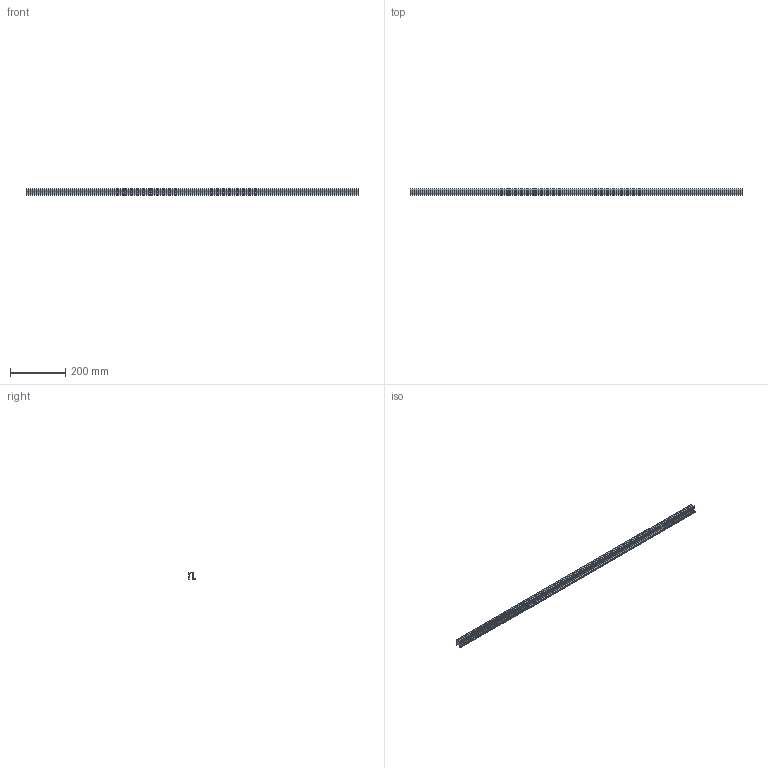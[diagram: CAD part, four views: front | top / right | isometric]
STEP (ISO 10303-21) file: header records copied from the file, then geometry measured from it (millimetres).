
FILE_DESCRIPTION( ( '' ), '1' );
FILE_NAME( 'C:/Users/dhek/Desktop/New folder/SAT., STP., IGS/Wingline L/9237916.stp', '2017-09-14T10:48:38', ( '' ), ( '' ), ' ', ' ', ' ' );
FILE_SCHEMA( ( 'CONFIG_CONTROL_DESIGN' ) );
Length unit declared in the file: millimetre
Products named in the file (1): 1
Bounding box: 1200 x 23 x 25 mm (x, y, z)
Volume: 138257.9 mm3; surface area: 164921.3 mm2
Topology: 1 solids, 1 shells, 35 faces, 99 edges, 66 vertices
Faces by surface type: cylinder 18, plane 17
Entity records: 1193 total; most frequent: DIRECTION 207, CARTESIAN_POINT 201, ORIENTED_EDGE 198, EDGE_CURVE 99, AXIS2_PLACEMENT_3D 72, VERTEX_POINT 66, LINE 63, VECTOR 63
